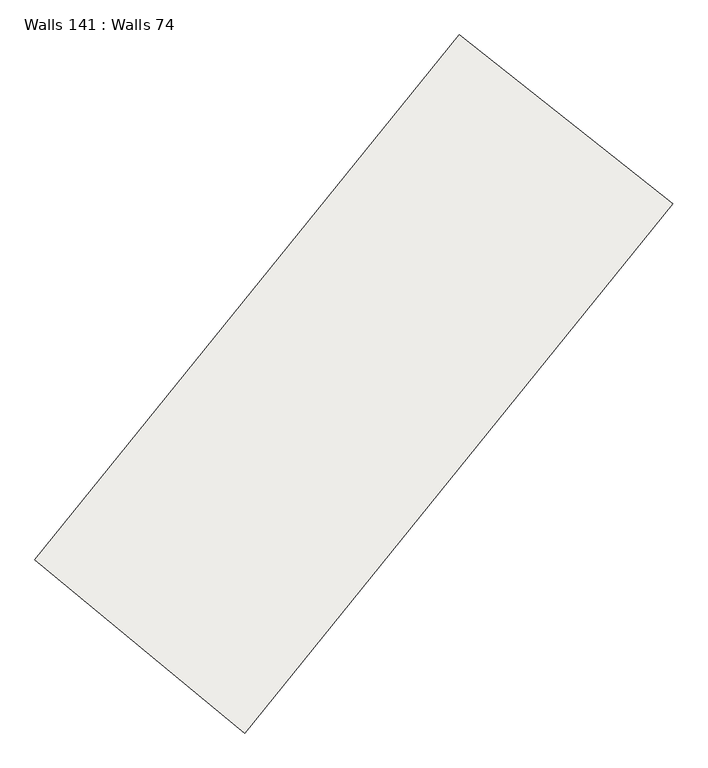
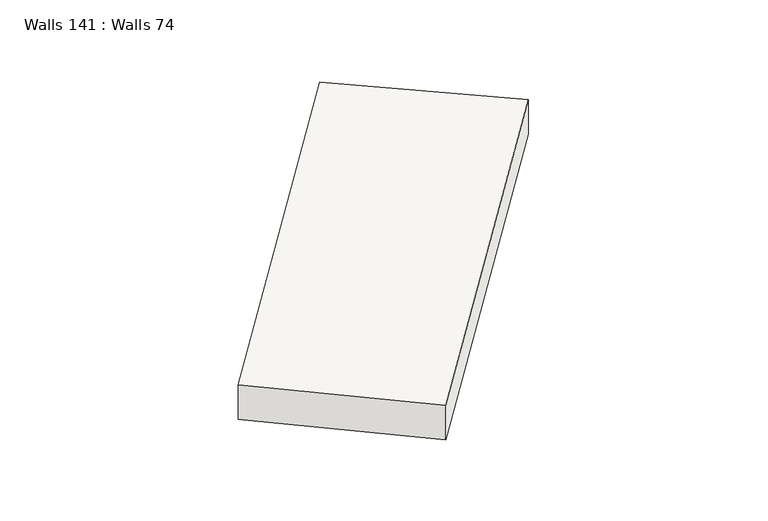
"""IFC4 building model written with IfcOpenShell, lengths in millimetres: slab geometry, Walls 141 : Walls 74."""

from ifc_helpers import new_model, si_unit, frame, origin, place, context, project, spatial, source, transform, mapped, element, save
from ifc_brep_helpers import plane_surface, spline_curve, spline_surface, advanced_brep


def walls_141_walls_74_9b0e2541(model_context):
    return source(origin(), model_context, "Body", "AdvancedBrep", [
        advanced_brep(
        [(57316.1780749, -93749.8258549, 639680.0), (57316.1780749, -93749.8258549, 638980.0), (60012.9551083, -95980.8331683, 638980.0), (60012.9551083, -95980.8331683, 639680.0), (62777.5461823, -87000.1570269, 639820.0), (65522.2059522, -89171.9863821, 639820.0), (65522.2059522, -89171.9863821, 639120.0), (62777.5461823, -87000.1570269, 639120.0)],
        [
            (0, 1),
            (1, 2),
            (2, 3),
            (3, 0),
            (4, 5),
            (5, 6),
            (6, 7),
            (7, 4),
            (4, 0, spline_curve(3, [(62777.5461823, -87000.1570269, 639820.0), (60981.629462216, -89269.755400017, 639773.3333335), (59161.029893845, -91519.822400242, 639726.6666665), (57316.1780749, -93749.8258549, 639680.0)], [4, 4], [0.0, 28.61464124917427])),
            (3, 5, spline_curve(3, [(60012.9551083, -95980.8331683, 639680.0), (61873.981729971, -93731.278080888, 639726.6666665), (63710.543469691, -91461.483538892, 639773.3333335), (65522.2059522, -89171.9863821, 639820.0)], [4, 4], [0.0, 28.61464124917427])),
            (7, 1, spline_curve(3, [(62777.5461823, -87000.1570269, 639120.0), (60981.629462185, -89269.755400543, 639073.333333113), (59161.029894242, -91519.822400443, 639026.666666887), (57316.1780749, -93749.8258549, 638980.0)], [4, 4], [0.0, 28.489781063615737])),
            (6, 2, spline_curve(3, [(65522.2059522, -89171.9863821, 639120.0), (63710.543469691, -91461.483538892, 639073.3333335), (61873.981729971, -93731.278080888, 639026.6666665), (60012.9551083, -95980.8331683, 638980.0)], [4, 4], [0.0, 28.614641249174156])),
        ],
        [
            plane_surface(frame((58664.5665916, -94865.3295116, 639330.0), z_axis=(-0.6374306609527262, -0.7705077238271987, 0.0), x_axis=(0.0, 0.0, 1.0))),
            plane_surface(frame((64149.8760672, -88086.0717045, 639470.0), z_axis=(0.6205226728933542, 0.7841885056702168, 0.0), x_axis=(0.0, 0.0, -1.0))),
            spline_surface(3, 3, [[(65522.2059522, -89171.9863821, 639820.0), (63710.543469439, -91461.48353862, 639773.333333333), (61873.981730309, -93731.278080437, 639726.666666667), (60012.9551083, -95980.8331683, 639680.0)], [(64607.319362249, -88448.043263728, 639820.0), (62800.905467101, -90730.907492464, 639773.333333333), (60969.664451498, -92994.126187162, 639726.666666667), (59114.029430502, -95237.164063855, 639680.0)], [(63692.432772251, -87724.100145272, 639820.0), (61891.267464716, -90000.331446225, 639773.333333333), (60065.347172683, -92256.974293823, 639726.666666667), (58215.103752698, -94493.494959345, 639680.0)], [(62777.5461823, -87000.1570269, 639820.0), (60981.629462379, -89269.755400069, 639773.333333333), (59161.029893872, -91519.822400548, 639726.666666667), (57316.1780749, -93749.8258549, 639680.0)]], [4, 4], [4, 4], [0.0, 11.482939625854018], [0.0, 28.61464124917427]),
            spline_surface(3, 3, [[(62777.5461823, -87000.1570269, 639820.0), (60981.629462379, -89269.755400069, 639773.333333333), (59161.029893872, -91519.822400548, 639726.666666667), (57316.1780749, -93749.8258549, 639680.0)], [(62777.5461823, -87000.1570269, 639586.666666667), (60981.629462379, -89269.755400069, 639540.0), (59161.029893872, -91519.822400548, 639493.333333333), (57316.1780749, -93749.8258549, 639446.666666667)], [(62777.5461823, -87000.1570269, 639353.333333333), (60981.629462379, -89269.755400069, 639306.666666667), (59161.029893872, -91519.822400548, 639260.0), (57316.1780749, -93749.8258549, 639213.333333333)], [(62777.5461823, -87000.1570269, 639120.0), (60981.629462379, -89269.755400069, 639073.333333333), (59161.029893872, -91519.822400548, 639026.666666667), (57316.1780749, -93749.8258549, 638980.0)]], [4, 4], [4, 4], [0.0, 2.2965879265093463], [0.0, 28.489781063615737]),
            spline_surface(3, 3, [[(62777.5461823, -87000.1570269, 639120.0), (60981.629462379, -89269.755400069, 639073.333333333), (59161.029893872, -91519.822400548, 639026.666666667), (57316.1780749, -93749.8258549, 638980.0)], [(63692.432772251, -87724.100145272, 639120.0), (61891.267464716, -90000.331446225, 639073.333333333), (60065.347172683, -92256.974293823, 639026.666666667), (58215.103752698, -94493.494959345, 638980.0)], [(64607.319362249, -88448.043263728, 639120.0), (62800.905467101, -90730.907492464, 639073.333333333), (60969.664451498, -92994.126187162, 639026.666666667), (59114.029430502, -95237.164063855, 638980.0)], [(65522.2059522, -89171.9863821, 639120.0), (63710.543469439, -91461.48353862, 639073.333333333), (61873.981730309, -93731.278080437, 639026.666666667), (60012.9551083, -95980.8331683, 638980.0)]], [4, 4], [4, 4], [0.0, 11.482939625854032], [0.0, 28.614641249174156]),
            spline_surface(3, 3, [[(65522.2059522, -89171.9863821, 639120.0), (63710.543469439, -91461.48353862, 639073.333333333), (61873.981730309, -93731.278080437, 639026.666666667), (60012.9551083, -95980.8331683, 638980.0)], [(65522.2059522, -89171.9863821, 639353.333333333), (63710.543469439, -91461.48353862, 639306.666666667), (61873.981730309, -93731.278080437, 639260.0), (60012.9551083, -95980.8331683, 639213.333333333)], [(65522.2059522, -89171.9863821, 639586.666666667), (63710.543469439, -91461.48353862, 639540.0), (61873.981730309, -93731.278080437, 639493.333333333), (60012.9551083, -95980.8331683, 639446.666666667)], [(65522.2059522, -89171.9863821, 639820.0), (63710.543469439, -91461.48353862, 639773.333333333), (61873.981730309, -93731.278080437, 639726.666666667), (60012.9551083, -95980.8331683, 639680.0)]], [4, 4], [4, 4], [0.0, 2.2965879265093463], [0.0, 28.73950157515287]),
        ],
        [
            (0, [[1, 2, 3, 4]]),
            (1, [[5, 6, 7, 8]]),
            (2, [[-5, 9, -4, 10]]),
            (3, [[-8, 11, -1, -9]]),
            (4, [[-7, 12, -2, -11]]),
            (5, [[-6, -10, -3, -12]]),
        ],
    ),
    ])


if __name__ == "__main__":
    model = new_model("IFC4")
    model_context = context("Model", 3, world=origin())
    ifc_project = project(units=[si_unit("LENGTHUNIT", "METRE", prefix="MILLI")], contexts=[model_context])
    site = spatial("IfcSite", under=ifc_project)
    building = spatial("IfcBuilding", under=site)
    placement = place(None, origin())
    walls_141_walls_74_shape = walls_141_walls_74_9b0e2541(model_context)
    element("IfcSlab", 1, ObjectType="Walls 141 : Walls 74", at=placement, inside=building, context=model_context, shape_type="MappedRepresentation", body=[
        mapped(walls_141_walls_74_shape, transform((0.0, 0.0, 0.0), x_axis=(1.0, 0.0, 0.0), y_axis=(0.0, 1.0, 0.0), z_axis=(0.0, 0.0, 1.0))),
    ])
    save(model, "model.ifc")
